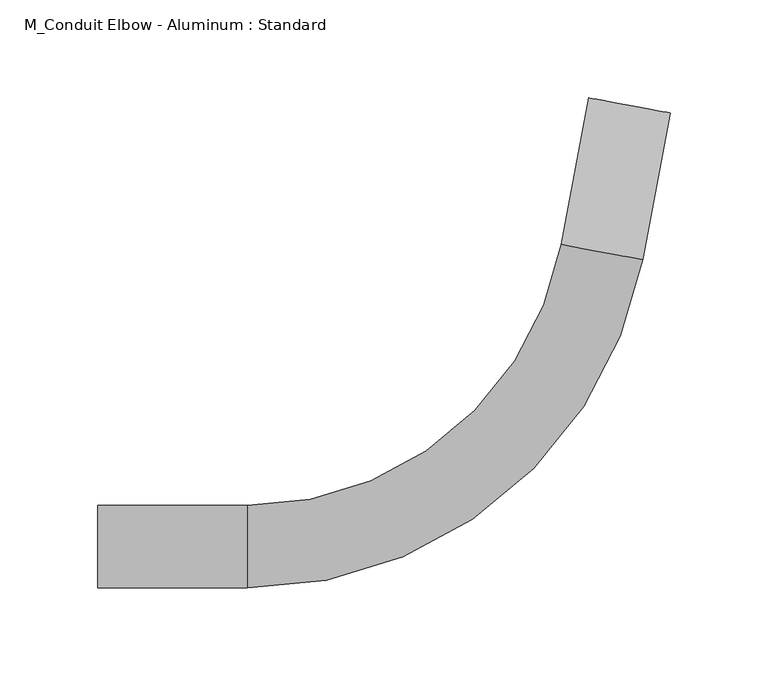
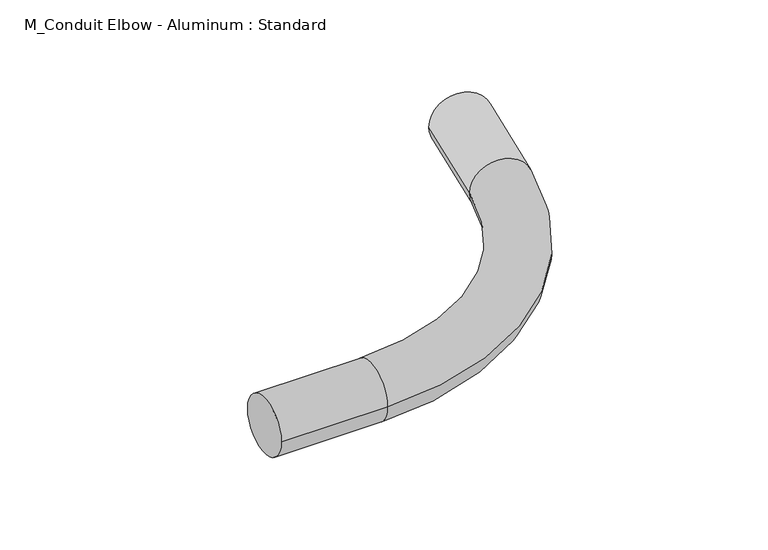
"""IFC4 building model written with IfcOpenShell, lengths in millimetres: cable carrier fitting geometry, M_Conduit Elbow - Aluminum : Standard."""

import ifcopenshell
import ifcopenshell.guid

model = None  # the IFC model being written
_history = None  # IfcOwnerHistory: only IFC2X3 demands one
_inside = {}  # id of a spatial element -> (the spatial element, [elements in it])
_under = {}  # id of a project, library or spatial element -> (it, [spatial elements below it])
_declared = {}  # id of a project -> (the project, [libraries it declares])
_typed = {}  # id of a type object -> (the type object, [elements of that type])
_made_of = {}  # id of a material, layer set ... -> (it, [elements and type objects made of it])


def new_model(schema):
    """Start an empty IFC model of exactly this schema.

    Asked for "IFC4X3", IfcOpenShell would pick the latest addendum, in which some entities
    have other attributes; the version numbers below select the first issue.
    IFC2X3 requires an IfcOwnerHistory on every rooted entity: one is made here for all.
    """
    global model, _history
    if schema == "IFC4X3":
        model = ifcopenshell.file(schema_version=(4, 3, 0, 0))
    else:
        model = ifcopenshell.file(schema=schema)
    _inside.clear()
    _under.clear()
    _declared.clear()
    _typed.clear()
    _made_of.clear()
    _history = None
    if model.schema == "IFC2X3":
        org = make("IfcOrganization", Name="unknown")
        user = make(
            "IfcPersonAndOrganization",
            ThePerson=make("IfcPerson", FamilyName="unknown"),
            TheOrganization=org,
        )
        app = make(
            "IfcApplication",
            ApplicationDeveloper=org,
            Version="unknown",
            ApplicationFullName="unknown",
            ApplicationIdentifier="unknown",
        )
        _history = make(
            "IfcOwnerHistory",
            OwningUser=user,
            OwningApplication=app,
            ChangeAction="ADDED",
            CreationDate=0,
        )
    return model


def make(cls, **values):
    """One entity of the class cls with the attributes given. An attribute that is None is left unset."""
    return model.create_entity(
        cls, **{name: value for name, value in values.items() if value is not None}
    )


def rooted(cls, **values):
    """An entity with a GlobalId (a new one), such as an element, a storey or a relation."""
    return make(cls, GlobalId=ifcopenshell.guid.new(), OwnerHistory=_history, **values)


def si_unit(unit_type, name, prefix=None):
    """IfcSIUnit, for example si_unit("LENGTHUNIT", "METRE", prefix="MILLI")."""
    return make("IfcSIUnit", UnitType=unit_type, Prefix=prefix, Name=name)


def assignment(units):
    """IfcUnitAssignment: the units of a project."""
    return None if units is None else make("IfcUnitAssignment", Units=units)


def point(xyz):
    """IfcCartesianPoint."""
    return None if xyz is None else make("IfcCartesianPoint", Coordinates=xyz)


def direction(xyz):
    """IfcDirection."""
    return None if xyz is None else make("IfcDirection", DirectionRatios=xyz)


def frame(location, z_axis=None, x_axis=None):
    """IfcAxis2Placement3D, a coordinate frame: its origin and axes. An axis left out is left unset."""
    return make(
        "IfcAxis2Placement3D",
        Location=point(location),
        Axis=direction(z_axis),
        RefDirection=direction(x_axis),
    )


def origin():
    """The frame at (0, 0, 0) with its axes left unset."""
    return frame((0.0, 0.0, 0.0))


def place(relative_to, where):
    """IfcLocalPlacement: puts the frame where relative to a parent placement (None: the world)."""
    return make(
        "IfcLocalPlacement", PlacementRelTo=relative_to, RelativePlacement=where
    )


def context(
    kind, dimensions, precision=None, world=None, true_north=None, identifier=None
):
    """IfcGeometricRepresentationContext, for example the 3D "Model" context."""
    return make(
        "IfcGeometricRepresentationContext",
        ContextIdentifier=identifier,
        ContextType=kind,
        CoordinateSpaceDimension=dimensions,
        Precision=precision,
        WorldCoordinateSystem=world,
        TrueNorth=true_north,
    )


def project(units=None, contexts=None):
    """IfcProject with its units and contexts."""
    return rooted(
        "IfcProject",
        Name="project",
        RepresentationContexts=contexts,
        UnitsInContext=assignment(units),
    )


def spatial(cls, under=None, at=None, **own):
    """A site, building, storey or space (cls), placed at a placement, below another one or the project."""
    s = rooted(cls, ObjectPlacement=at, **own)
    if under is not None:
        _under.setdefault(under.id(), (under, []))[1].append(s)
    return s


def circle_curve(where, radius):
    """IfcCircle in the frame where."""
    return make("IfcCircle", Position=where, Radius=radius)


def ellipse_curve(where, semi_axis1, semi_axis2):
    """IfcEllipse in the frame where."""
    return make(
        "IfcEllipse", Position=where, SemiAxis1=semi_axis1, SemiAxis2=semi_axis2
    )


def trimmed(basis, trim1, trim2, sense, master):
    """IfcTrimmedCurve: the piece of a basis curve between two trims."""
    return make(
        "IfcTrimmedCurve",
        BasisCurve=basis,
        Trim1=trim1,
        Trim2=trim2,
        SenseAgreement=sense,
        MasterRepresentation=master,
    )


def shape(context_of_items, identifier, shape_type, items):
    """IfcShapeRepresentation: the items that make up one representation, for example the "Body"."""
    return make(
        "IfcShapeRepresentation",
        ContextOfItems=context_of_items,
        RepresentationIdentifier=identifier,
        RepresentationType=shape_type,
        Items=items,
    )


def source(mapping_origin, context_of_items, identifier, shape_type, items):
    """IfcRepresentationMap: a shape defined once, which mapped items show again and again."""
    return make(
        "IfcRepresentationMap",
        MappingOrigin=mapping_origin,
        MappedRepresentation=shape(context_of_items, identifier, shape_type, items),
    )


def transform(
    local_origin,
    x_axis=None,
    y_axis=None,
    z_axis=None,
    scale=None,
    scale2=None,
    scale3=None,
    uniform=True,
):
    """IfcCartesianTransformationOperator3D, or its non-uniform kind. x_axis, y_axis, z_axis: its Axis1, 2, 3."""
    if uniform:
        return make(
            "IfcCartesianTransformationOperator3D",
            Axis1=direction(x_axis),
            Axis2=direction(y_axis),
            LocalOrigin=point(local_origin),
            Scale=scale,
            Axis3=direction(z_axis),
        )
    return make(
        "IfcCartesianTransformationOperator3DnonUniform",
        Axis1=direction(x_axis),
        Axis2=direction(y_axis),
        LocalOrigin=point(local_origin),
        Scale=scale,
        Axis3=direction(z_axis),
        Scale2=scale2,
        Scale3=scale3,
    )


def mapped(mapping_source, mapping_target):
    """IfcMappedItem: shows the shape of a source again, moved by a transform."""
    return make(
        "IfcMappedItem", MappingSource=mapping_source, MappingTarget=mapping_target
    )


def made_of(thing, what):
    """Note that an element or type object is made of a material, layer set ...; save() writes the relation."""
    if what is not None:
        _made_of.setdefault(what.id(), (what, []))[1].append(thing)
    return thing


def element(
    cls,
    number,
    at=None,
    inside=None,
    cuts=None,
    type_object=None,
    material=None,
    context=None,
    identifier="Body",
    shape_type=None,
    held_by="IfcProductDefinitionShape",
    body=None,
    shapes=None,
    **own,
):
    """One element of the class cls, such as IfcWall. Its Tag is "e" and its number.

    at: its placement. inside: the storey or other place that contains it. cuts: it is an
    opening in that element (IfcRelVoidsElement). A single representation is given by context,
    identifier, shape_type and body (its items); several are given by shapes. held_by: the class
    of the entity that holds the representations. save() writes the other relations.
    """
    e = rooted(cls, Tag="e%d" % number, ObjectPlacement=at, **own)
    if body is not None:
        shapes = [shape(context, identifier, shape_type, body)]
    if shapes is not None:
        e.Representation = make(held_by, Representations=shapes)
    if inside is not None:
        _inside.setdefault(inside.id(), (inside, []))[1].append(e)
    if cuts is not None:
        rooted(
            "IfcRelVoidsElement", RelatingBuildingElement=cuts, RelatedOpeningElement=e
        )
    if type_object is not None:
        _typed.setdefault(type_object.id(), (type_object, []))[1].append(e)
    return made_of(e, material)


def aggregate(whole, parts):
    """IfcRelAggregates: a whole, such as a stair, and the parts it consists of."""
    return rooted("IfcRelAggregates", RelatingObject=whole, RelatedObjects=parts)


def save(model, path):
    """Write the relations noted so far, then the file.

    IfcRelAggregates (storeys below a building ...), IfcRelContainedInSpatialStructure (elements
    in a storey), IfcRelDefinesByType, IfcRelAssociatesMaterial and IfcRelDeclares: one each for
    every whole, place, type object, material and project.
    """
    for whole, parts in _under.values():
        aggregate(whole, parts)
    for where, things in _inside.values():
        rooted(
            "IfcRelContainedInSpatialStructure",
            RelatedElements=things,
            RelatingStructure=where,
        )
    for kind, things in _typed.values():
        rooted("IfcRelDefinesByType", RelatedObjects=things, RelatingType=kind)
    for what, things in _made_of.values():
        rooted("IfcRelAssociatesMaterial", RelatedObjects=things, RelatingMaterial=what)
    for by, libraries in _declared.values():
        rooted("IfcRelDeclares", RelatingContext=by, RelatedDefinitions=libraries)
    model.write(path)


def plane_surface(at):
    """IfcPlane: the flat surface through the origin of the frame at, square to its z axis."""
    return make("IfcPlane", Position=at)


def cylinder_surface(at, radius):
    """IfcCylindricalSurface: all points at the distance radius from the z axis of the frame at."""
    return make("IfcCylindricalSurface", Position=at, Radius=radius)


def revolved_surface(curve, axis_point, axis_direction):
    """IfcSurfaceOfRevolution: the curve turned about the line through axis_point along axis_direction."""
    return make(
        "IfcSurfaceOfRevolution",
        SweptCurve=make("IfcArbitraryOpenProfileDef", ProfileType="CURVE", Curve=curve),
        AxisPosition=make("IfcAxis1Placement", Location=point(axis_point), Axis=direction(axis_direction)),
    )


def advanced_brep(points, edges, surfaces, faces):
    """IfcAdvancedBrep: a solid bounded by faces that lie on surfaces and meet in shared edges.

    An edge is (start, end): straight between two places in points (the first is 0);
    or (start, end, curve); or (start, end, curve, False) where it runs against its curve.
    A face is (place in surfaces, loops), or (place, loops, False) where it looks against
    its surface's normal. A loop lists edges by number (the first is 1), with a minus sign
    where the edge is run from its end to its start. The first loop is the outer one.
    """
    corners = [point(p) for p in points]
    vertices = [make("IfcVertexPoint", VertexGeometry=c) for c in corners]
    made = []
    for start, end, *more in edges:
        made.append(
            make(
                "IfcEdgeCurve",
                EdgeStart=vertices[start],
                EdgeEnd=vertices[end],
                EdgeGeometry=more[0] if more else make("IfcPolyline", Points=[corners[start], corners[end]]),
                SameSense=more[1] if len(more) > 1 else True,
            )
        )
    hull = []
    for where, loops, *sense in faces:
        bounds = []
        for j, loop in enumerate(loops):
            ring = [make("IfcOrientedEdge", EdgeElement=made[abs(k) - 1], Orientation=k > 0) for k in loop]
            bounds.append(
                make(
                    "IfcFaceOuterBound" if j == 0 else "IfcFaceBound",
                    Bound=make("IfcEdgeLoop", EdgeList=ring),
                    Orientation=True,
                )
            )
        hull.append(make("IfcAdvancedFace", Bounds=bounds, FaceSurface=surfaces[where], SameSense=sense[0] if sense else True))
    return make("IfcAdvancedBrep", Outer=make("IfcClosedShell", CfsFaces=hull))


def m_conduit_elbow_aluminum_standard_8a5b7878(model_context):
    return source(origin(), model_context, "Body", "AdvancedBrep", [
        advanced_brep(
        [(-229.2212746, -21.082, 0.0), (-229.2212746, 21.082, 0.0), (-153.0212746, -21.082, 0.0), (-153.0212746, 21.082, 0.0), (7.2903762, 154.2945612, 0.0), (48.7416754, 146.5749306, 0.0), (62.692815, 221.486917, 0.0), (21.2415158, 229.2065476, 0.0)],
        [
            (0, 1, circle_curve(frame((-229.2212746, 0.0, 0.0), z_axis=(-1.0, 0.0, 0.0), x_axis=(0.0, 1.0, 0.0)), 21.082)),
            (1, 0, circle_curve(frame((-229.2212746, 0.0, 0.0), z_axis=(-1.0, 0.0, 0.0), x_axis=(0.0, 1.0, 0.0)), 21.082)),
            (0, 2),
            (2, 3, circle_curve(frame((-153.0212746, 0.0, 0.0), z_axis=(-1.0, 0.0, 0.0), x_axis=(0.0, 1.0, 0.0)), 21.082)),
            (3, 1),
            (3, 2, circle_curve(frame((-153.0212746, 0.0, 0.0), z_axis=(-1.0, 0.0, 0.0), x_axis=(0.0, 1.0, 0.0)), 21.082)),
            (4, 3, circle_curve(frame((-153.0212746, 184.15, 0.0), z_axis=(0.0, 0.0, -1.0), x_axis=(0.0, -1.0, 0.0)), 163.068)),
            (2, 5, circle_curve(frame((-153.0212746, 184.15, 0.0), z_axis=(0.0, 0.0, 1.0), x_axis=(0.0, -1.0, 0.0)), 205.232)),
            (5, 4, circle_curve(frame((28.0160258, 150.4347459, 0.0), z_axis=(-0.18308582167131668, -0.983096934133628, 0.0), x_axis=(-0.983096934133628, 0.18308582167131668, 0.0)), 21.082)),
            (4, 5, circle_curve(frame((28.0160258, 150.4347459, 0.0), z_axis=(-0.18308582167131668, -0.983096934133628, 0.0), x_axis=(-0.983096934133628, 0.18308582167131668, 0.0)), 21.082)),
            (6, 7, circle_curve(frame((41.9671654, 225.3467323, 0.0), z_axis=(0.18308582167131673, 0.983096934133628, 0.0), x_axis=(-0.983096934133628, 0.18308582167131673, 0.0)), 21.082)),
            (7, 6, circle_curve(frame((41.9671654, 225.3467323, 0.0), z_axis=(0.18308582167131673, 0.983096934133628, 0.0), x_axis=(-0.983096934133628, 0.18308582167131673, 0.0)), 21.082)),
            (5, 6),
            (7, 4),
        ],
        [
            plane_surface(frame((-229.2212746, 0.0, 0.0), z_axis=(-1.0, 0.0, 0.0), x_axis=(0.0, 0.0, 1.0))),
            cylinder_surface(frame((-229.2212746, 0.0, 0.0), z_axis=(-1.0, 0.0, 0.0), x_axis=(0.0, 1.0, 0.0)), 21.082),
            revolved_surface(trimmed(ellipse_curve(frame((-153.0212746, 0.0, 0.0), z_axis=(-1.0, 0.0, 0.0), x_axis=(0.0, 1.0, 0.0)), 21.082, 21.082), [point((-153.0212746, -21.082, 0.0))], [point((-153.0212746, 21.082, 0.0))], True, "CARTESIAN"), (-153.0212746, 184.15, 0.0), (0.0, 0.0, 1.0)),
            revolved_surface(trimmed(ellipse_curve(frame((-153.0212746, 0.0, 0.0), z_axis=(-1.0, 0.0, 0.0), x_axis=(0.0, 1.0, 0.0)), 21.082, 21.082), [point((-153.0212746, 21.082, 0.0))], [point((-153.0212746, -21.082, 0.0))], True, "CARTESIAN"), (-153.0212746, 184.15, 0.0), (0.0, 0.0, 1.0)),
            plane_surface(frame((41.9671654, 225.3467323, 0.0), z_axis=(0.18308582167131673, 0.983096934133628, 0.0), x_axis=(0.0, 0.0, 1.0))),
            cylinder_surface(frame((28.0160258, 150.4347459, 0.0), z_axis=(-0.18308582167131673, -0.983096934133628, 0.0), x_axis=(-0.983096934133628, 0.18308582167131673, 0.0)), 21.082),
        ],
        [
            (0, [[1, 2]]),
            (1, [[-1, 3, 4, 5]]),
            (1, [[-2, -5, 6, -3]]),
            (2, [[7, -4, 8, 9]]),
            (3, [[-8, -6, -7, 10]]),
            (4, [[11, 12]]),
            (5, [[-9, 13, -12, 14]]),
            (5, [[-10, -14, -11, -13]]),
        ],
    ),
    ])


if __name__ == "__main__":
    model = new_model("IFC4")
    model_context = context("Model", 3, world=origin())
    ifc_project = project(units=[si_unit("LENGTHUNIT", "METRE", prefix="MILLI")], contexts=[model_context])
    site = spatial("IfcSite", under=ifc_project)
    building = spatial("IfcBuilding", under=site)
    placement = place(None, origin())
    m_conduit_elbow_aluminum_standard_shape = m_conduit_elbow_aluminum_standard_8a5b7878(model_context)
    element("IfcCableCarrierFitting", 1, ObjectType="M_Conduit Elbow - Aluminum : Standard", at=placement, inside=building, context=model_context, shape_type="MappedRepresentation", body=[
        mapped(m_conduit_elbow_aluminum_standard_shape, transform((0.0, 0.0, 0.0), x_axis=(1.0, 0.0, 0.0), y_axis=(0.0, 1.0, 0.0), z_axis=(0.0, 0.0, 1.0))),
    ])
    save(model, "model.ifc")
